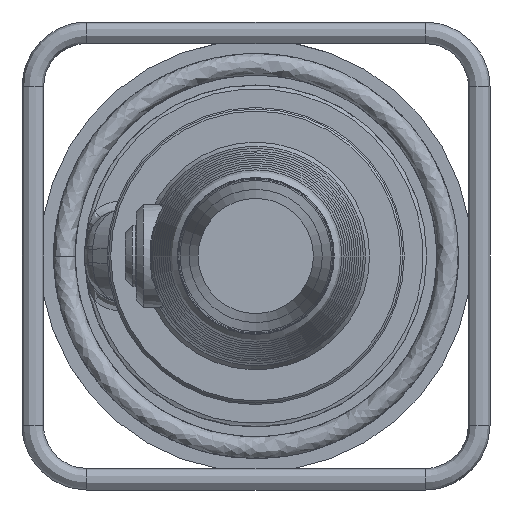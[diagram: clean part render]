
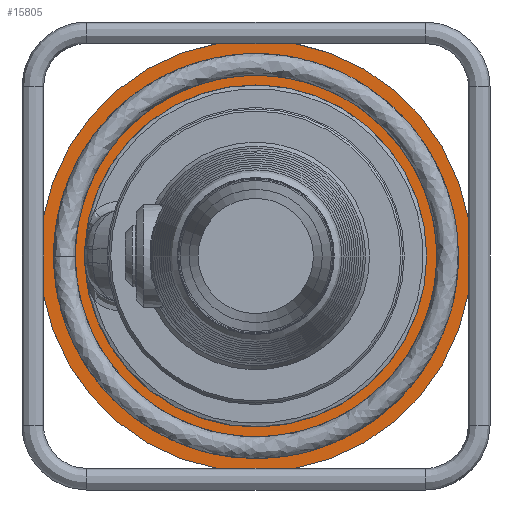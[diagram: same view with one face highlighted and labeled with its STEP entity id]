
A CAD part, left-side view. The second image highlights one B-rep face of the part: STEP entity #15805.
In plain terms, the highlighted planar face has unit normal (-1, 0, 0).
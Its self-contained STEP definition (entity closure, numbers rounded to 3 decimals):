
#279=FACE_BOUND('',#4852,.T.);
#2574=CIRCLE('',#16504,120.);
#2576=CIRCLE('',#16530,95.);
#3110=PLANE('',#16529);
#3814=FACE_OUTER_BOUND('',#4851,.T.);
#4851=EDGE_LOOP('',(#13881));
#4852=EDGE_LOOP('',(#13882));
#7604=VERTEX_POINT('',#36397);
#7606=VERTEX_POINT('',#36425);
#9761=EDGE_CURVE('',#7604,#7604,#2574,.T.);
#9763=EDGE_CURVE('',#7606,#7606,#2576,.T.);
#13881=ORIENTED_EDGE('',*,*,#9761,.F.);
#13882=ORIENTED_EDGE('',*,*,#9763,.T.);
#15805=ADVANCED_FACE('',(#3814,#279),#3110,.T.);
#16504=AXIS2_PLACEMENT_3D('',#36398,#18661,#18662);
#16529=AXIS2_PLACEMENT_3D('',#36424,#18711,#18712);
#16530=AXIS2_PLACEMENT_3D('',#36426,#18713,#18714);
#18661=DIRECTION('center_axis',(1.,0.,0.));
#18662=DIRECTION('ref_axis',(0.,0.,1.));
#18711=DIRECTION('center_axis',(-1.,0.,
0.));
#18712=DIRECTION('ref_axis',(0.,0.,1.));
#18713=DIRECTION('center_axis',(1.,0.,0.));
#18714=DIRECTION('ref_axis',(0.,-1.,0.));
#36397=CARTESIAN_POINT('',(-5.005,120.161,0.005));
#36398=CARTESIAN_POINT('Origin',(-5.,0.161,0.));
#36424=CARTESIAN_POINT('Origin',(-5.005,120.161,0.005));
#36425=CARTESIAN_POINT('',(-4.996,-94.839,0.));
#36426=CARTESIAN_POINT('Origin',(-5.,0.161,0.));
